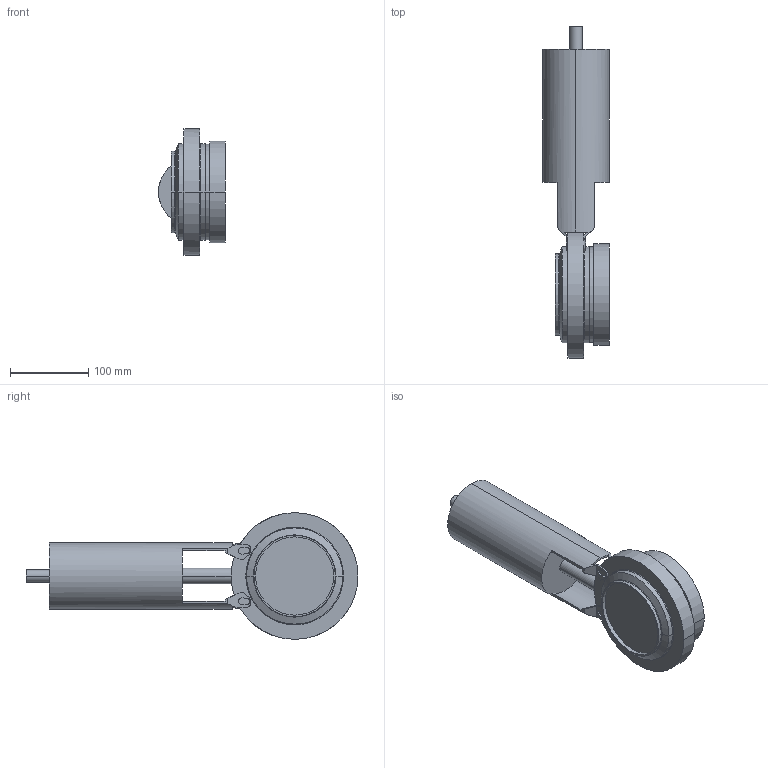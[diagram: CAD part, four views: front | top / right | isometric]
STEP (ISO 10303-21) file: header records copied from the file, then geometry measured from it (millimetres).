
FILE_DESCRIPTION(('Creo Elements/Direct Modeling STEP Export'),'2;1');
FILE_NAME('SV1-100-FZ-1S-2G.stp','2017-04-26T10:42:44',(''),(''),'PTC Creo Elements/Direct Modeling STEP processor for AP214 (Solid Model)','PTC Creo Elements/Direct Modeling 19.0B 21-Mar-2015 (C) Parametric Technology GmbH','');
FILE_SCHEMA(('AUTOMOTIVE_DESIGN { 1 0 10303 214 1 1 1 1 }'));
Length unit declared in the file: millimetre
Products named in the file (2): SV1-100-FZ-1S-2G
Assembly tree (1 placements, depth 2):
  SV1-100-FZ-1S-2G
    SV1-100-FZ-1S-2G
Bounding box: 85.5 x 424.38 x 162 mm (x, y, z)
Volume: 1888892.4 mm3; surface area: 154297.5 mm2
Topology: 1 solids, 1 shells, 120 faces, 317 edges, 202 vertices
Faces by surface type: plane 74, cylinder 36, torus 6, cone 4
Entity records: 4041 total; most frequent: CARTESIAN_POINT 1122, ORIENTED_EDGE 634, DIRECTION 577, EDGE_CURVE 317, VERTEX_POINT 202, AXIS2_PLACEMENT_3D 196, VECTOR 185, LINE 185
